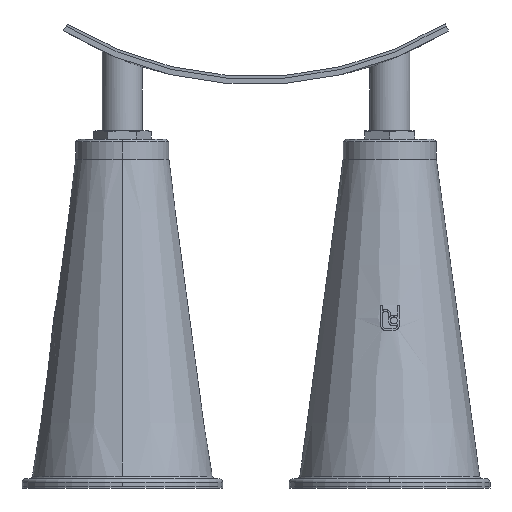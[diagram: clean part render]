
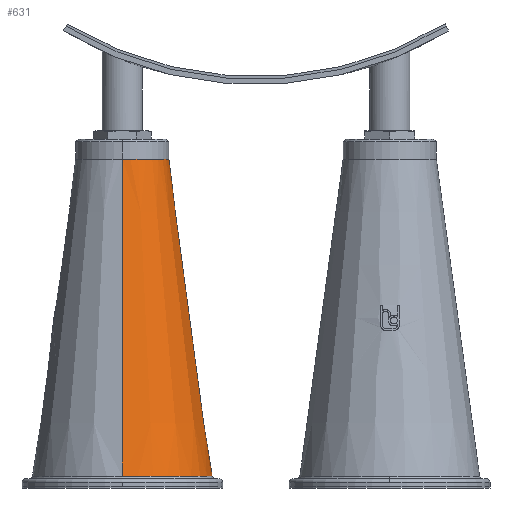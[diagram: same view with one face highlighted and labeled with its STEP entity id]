
A CAD part, front view. The second image highlights one B-rep face of the part: STEP entity #631.
In plain terms, the highlighted conical face has half-angle 7.768 degrees and reference radius 102.093 mm.
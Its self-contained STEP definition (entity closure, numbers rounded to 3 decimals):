
#631=ADVANCED_FACE('',(#1266),#1267,.T.);
#1266=FACE_OUTER_BOUND('',#1960,.T.);
#1267=CONICAL_SURFACE('',#1961,102.093,0.136);
#1960=EDGE_LOOP('',(#3495,#3496,#3497,#3498,#3499));
#1961=AXIS2_PLACEMENT_3D('',#3500,#3501,#3502);
#3495=ORIENTED_EDGE('',*,*,#4456,.T.);
#3496=ORIENTED_EDGE('',*,*,#4537,.F.);
#3497=ORIENTED_EDGE('',*,*,#4397,.F.);
#3498=ORIENTED_EDGE('',*,*,#4458,.T.);
#3499=ORIENTED_EDGE('',*,*,#4538,.T.);
#3500=CARTESIAN_POINT('',(8.211,528.029,-12.338));
#3501=DIRECTION('',(0.,0.,-1.0));
#3502=DIRECTION('',(0.,-1.0,0.));
#4397=EDGE_CURVE('',#5308,#5310,#5311,.T.);
#4456=EDGE_CURVE('',#5415,#5416,#5417,.T.);
#4458=EDGE_CURVE('',#5308,#5418,#5420,.T.);
#4537=EDGE_CURVE('',#5310,#5416,#5544,.T.);
#4538=EDGE_CURVE('',#5418,#5415,#5545,.T.);
#5308=VERTEX_POINT('',#8048);
#5310=VERTEX_POINT('',#8050);
#5311=CIRCLE('',#8051,134.41);
#5415=VERTEX_POINT('',#8509);
#5416=VERTEX_POINT('',#8510);
#5417=LINE('',#8511,#8512);
#5418=VERTEX_POINT('',#8513);
#5420=LINE('',#8515,#8516);
#5544=CIRCLE('',#9000,134.41);
#5545=CIRCLE('',#9001,69.775);
#8048=CARTESIAN_POINT('',(8.211,662.439,-249.231));
#8050=CARTESIAN_POINT('',(142.621,528.029,-249.231));
#8051=AXIS2_PLACEMENT_3D('',#9803,#9804,#9805);
#8509=CARTESIAN_POINT('',(8.211,458.254,224.555));
#8510=CARTESIAN_POINT('',(8.211,393.619,-249.231));
#8511=CARTESIAN_POINT('',(8.211,425.937,-12.338));
#8512=VECTOR('',#9875,1.0);
#8513=CARTESIAN_POINT('',(8.211,597.805,224.555));
#8515=CARTESIAN_POINT('',(8.211,630.122,-12.338));
#8516=VECTOR('',#9879,1.0);
#9000=AXIS2_PLACEMENT_3D('',#9960,#9961,#9962);
#9001=AXIS2_PLACEMENT_3D('',#9963,#9964,#9965);
#9803=CARTESIAN_POINT('',(8.211,528.029,-249.231));
#9804=DIRECTION('',(0.,0.,-1.0));
#9805=DIRECTION('',(0.,-1.0,0.));
#9875=DIRECTION('',(0.,-0.135,-0.991));
#9879=DIRECTION('',(0.,-0.135,0.991));
#9960=CARTESIAN_POINT('',(8.211,528.029,-249.231));
#9961=DIRECTION('',(0.,0.,-1.0));
#9962=DIRECTION('',(0.,-1.0,0.));
#9963=CARTESIAN_POINT('',(8.211,528.029,224.555));
#9964=DIRECTION('',(0.,0.,-1.0));
#9965=DIRECTION('',(0.,-1.0,0.));
